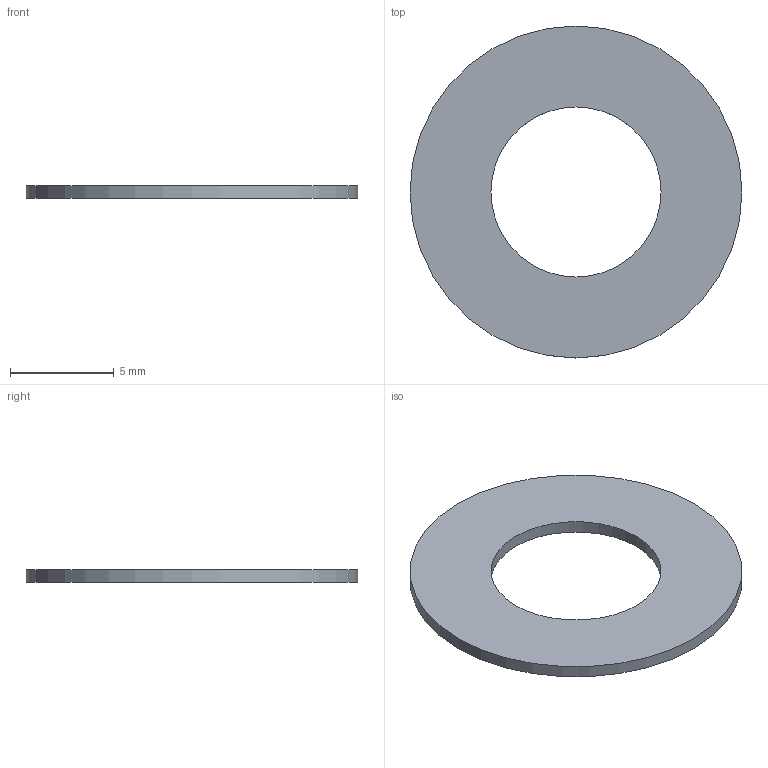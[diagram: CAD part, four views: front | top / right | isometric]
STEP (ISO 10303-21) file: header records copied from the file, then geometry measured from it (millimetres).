
FILE_DESCRIPTION(('Open CASCADE Model'),'2;1');
FILE_NAME('Open CASCADE Shape Model','2026-11-23T18:10:07',('Author'),( 'Open CASCADE'),'Open CASCADE STEP processor 8.0','build123d', 'Unknown');
FILE_SCHEMA(('AUTOMOTIVE_DESIGN { 1 0 10303 214 1 1 1 1 }'));
Length unit declared in the file: millimetre
Products named in the file (1): SOLID
Bounding box: 16 x 16 x 0.6 mm (x, y, z)
Volume: 89 mm3; surface area: 342.1 mm2
Topology: 1 solids, 1 shells, 4 faces, 6 edges, 4 vertices
Faces by surface type: cylinder 2, plane 2
Full cylindrical faces by diameter (mm): 8.2 x1, 16 x1
Entity records: 186 total; most frequent: DIRECTION 32, CARTESIAN_POINT 27, ORIENTED_EDGE 12, PCURVE 12, DEFINITIONAL_REPRESENTATION 12, LINE 10, VECTOR 10, AXIS2_PLACEMENT_3D 9
